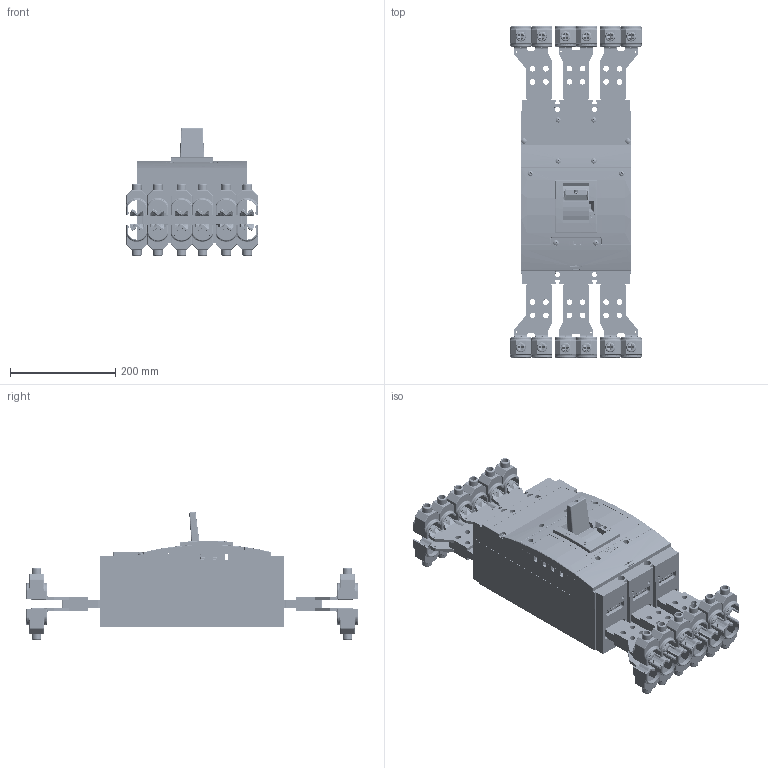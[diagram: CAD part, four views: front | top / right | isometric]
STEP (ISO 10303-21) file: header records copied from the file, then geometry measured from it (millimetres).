
FILE_DESCRIPTION (( 'STEP AP214' ), '1' );
FILE_NAME ('BL1600SE305__SE-BL__CS-BL-W010.step', '2011-09-08T09:22:50', ( 'Radek Veselý' ), ( 'Siemens and Partners' ), 'SwSTEP 2.0', 'SolidWorks 2006303', '' );
FILE_SCHEMA (( 'AUTOMOTIVE_DESIGN' ));
Length unit declared in the file: millimetre
Products named in the file (1): BL1600SE305__SE-BL__CS-BL-W010
Bounding box: 249.6 x 631.5 x 243.62 mm (x, y, z)
Volume: 4431842.7 mm3; surface area: 1911169.6 mm2
Topology: 81 solids, 81 shells, 13287 faces, 33702 edges, 20309 vertices
Faces by surface type: plane 8301, cylinder 3341, bspline 538, torus 523, sphere 350, cone 234
Entity records: 557463 total; most frequent: CARTESIAN_POINT 92338, ORIENTED_EDGE 66762, DIRECTION 65160, EDGE_CURVE 33381, VECTOR 23836, LINE 23836, AXIS2_PLACEMENT_3D 20662, VERTEX_POINT 20299
